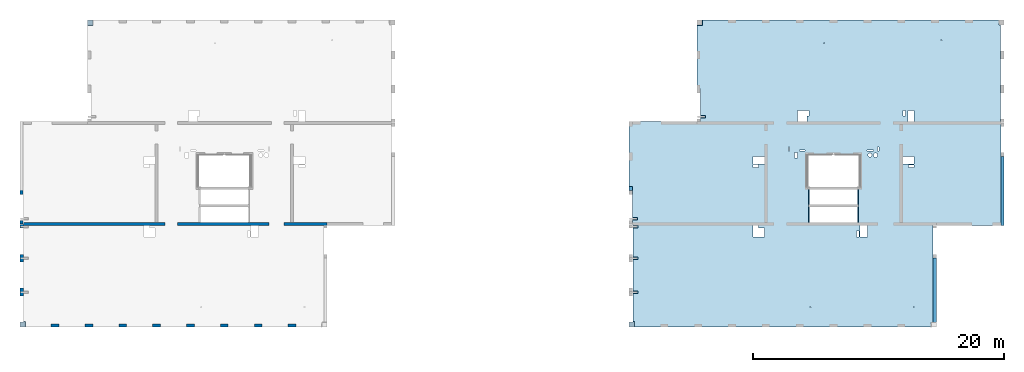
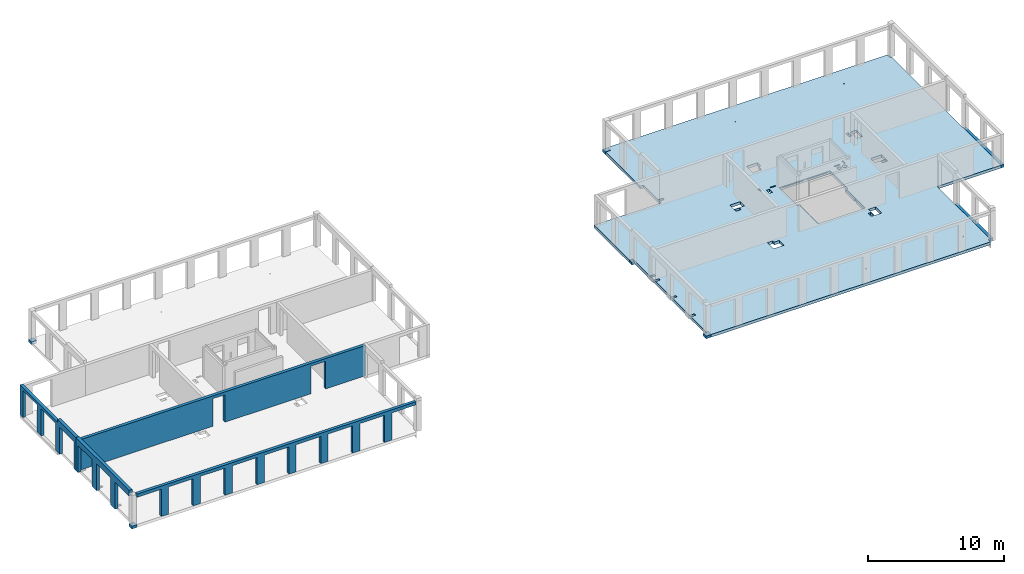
# One storey, part 2 of 8: 8 slabs, 4 walls, 54 openings.
"""IFC2X3 building model written with IfcOpenShell, lengths in millimetres."""

from ifc_helpers import new_model, entity, si_unit, converted_unit, derived_unit, direction, frame, frame_2d, origin, origin_2d_with_axis, place, context, subcontext, project, spatial, polyline, rectangle, circle, outline, extrude, material, layer, layer_set, layer_usage, type_object, element, save


model = new_model("IFC2X3")

# Units and contexts
model_context = context("Model", 3, precision=0.01, world=origin(), true_north=direction((6.12303176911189e-17, 1.0)))
body_context = subcontext(model_context, "Body", "Model", "MODEL_VIEW")
ifc_project = project(units=[si_unit("LENGTHUNIT", "METRE", prefix="MILLI"), si_unit("AREAUNIT", "SQUARE_METRE"), si_unit("VOLUMEUNIT", "CUBIC_METRE"), converted_unit("PLANEANGLEUNIT", "DEGREE", entity("IfcRatioMeasure", 0.0174532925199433), si_unit("PLANEANGLEUNIT", "RADIAN"), dimensions=[0, 0, 0, 0, 0, 0, 0]), si_unit("MASSUNIT", "GRAM", prefix="KILO"), derived_unit("MASSDENSITYUNIT", [(si_unit("MASSUNIT", "GRAM", prefix="KILO"), 1), (si_unit("LENGTHUNIT", "METRE"), -3)]), si_unit("TIMEUNIT", "SECOND"), si_unit("FREQUENCYUNIT", "HERTZ"), si_unit("THERMODYNAMICTEMPERATUREUNIT", "DEGREE_CELSIUS"), derived_unit("THERMALTRANSMITTANCEUNIT", [(si_unit("MASSUNIT", "GRAM", prefix="KILO"), 1), (si_unit("THERMODYNAMICTEMPERATUREUNIT", "KELVIN"), -1), (si_unit("TIMEUNIT", "SECOND"), -3)]), derived_unit("VOLUMETRICFLOWRATEUNIT", [(si_unit("LENGTHUNIT", "METRE"), 3), (si_unit("TIMEUNIT", "SECOND"), -1)]), si_unit("ELECTRICCURRENTUNIT", "AMPERE"), si_unit("ELECTRICVOLTAGEUNIT", "VOLT"), si_unit("POWERUNIT", "WATT"), si_unit("FORCEUNIT", "NEWTON", prefix="KILO"), si_unit("ILLUMINANCEUNIT", "LUX"), si_unit("LUMINOUSFLUXUNIT", "LUMEN"), si_unit("LUMINOUSINTENSITYUNIT", "CANDELA"), derived_unit("USERDEFINED", [(si_unit("MASSUNIT", "GRAM", prefix="KILO"), -1), (si_unit("LENGTHUNIT", "METRE"), -2), (si_unit("TIMEUNIT", "SECOND"), 3), (si_unit("LUMINOUSFLUXUNIT", "LUMEN"), 1)]), derived_unit("LINEARVELOCITYUNIT", [(si_unit("LENGTHUNIT", "METRE"), 1), (si_unit("TIMEUNIT", "SECOND"), -1)]), si_unit("PRESSUREUNIT", "PASCAL"), derived_unit("USERDEFINED", [(si_unit("LENGTHUNIT", "METRE"), -2), (si_unit("MASSUNIT", "GRAM", prefix="KILO"), 1), (si_unit("TIMEUNIT", "SECOND"), -2)])], contexts=[model_context])

# Site, building, storey
site_placement = place(None, origin())
site = spatial("IfcSite", under=ifc_project, at=site_placement, Name="Default", CompositionType="ELEMENT")
building_placement = place(site_placement, origin())
building = spatial("IfcBuilding", under=site, at=building_placement, Name="niet gebruiken", CompositionType="ELEMENT")
storey_placement = place(building_placement, frame((0.0, 0.0, 45270.0)))
storey = spatial("IfcBuildingStorey", under=building, at=storey_placement, Name="15 vijftiende verdieping", CompositionType="ELEMENT", Elevation=45270.0)

# Slab, openings
ifc_material_1 = material(Name="NLRS_f2_beton ihwg")
ifc_layer_1 = layer(ifc_material_1, 250.0)
ifc_layer_set_1 = layer_set([ifc_layer_1], Name="Floor:NLRS_23.21_FL_beton ihwg d=250_gen")
ifc_layer_usage_1 = layer_usage(ifc_layer_set_1, "AXIS3", "POSITIVE", 0.0)
slab_1_placement = place(storey_placement, frame((75500.0, 28756.0, -340.0)))
slab_1 = element("IfcSlab", 1, at=slab_1_placement, inside=storey, material=ifc_layer_usage_1, Name="Floor:NLRS_23.21_FL_beton ihwg d=250_gen", ObjectType="Floor:NLRS_23.21_FL_beton ihwg d=250_gen", PredefinedType="FLOOR", context=body_context, shape_type="SweptSolid", body=[
    extrude(outline(polyline([(8994.99996701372, 12250.0), (-14665.0, 12250.0), (-14665.0, 11840.0), (-14805.0, 11840.0), (-14805.0, 4060.0), (-14825.0, 4060.0), (-14825.0, -4150.0), (-9425.0, -4150.0), (-9425.0, -11890.0), (-9265.0, -11890.0), (-9265.0, -12250.0), (14395.0, -12250.0), (14395.0, -11820.0), (14535.0, -11820.0), (14535.0, -4060.0), (14555.0, -4060.0), (14555.0, -1040.0), (14825.0, -1040.0), (14825.0, 4150.0), (9155.0, 4150.0), (9155.0, 6750.0), (9425.0, 6750.0), (9425.0, 11820.0), (8994.99996701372, 11820.0), (8994.99996701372, 12250.0)])), frame((14825.0, 12250.0, 250.0), z_axis=(0.0, 0.0, -1.0), x_axis=(-1.0, 0.0, 0.0)), (0.0, 0.0, 1.0), 250.000000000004),
])
opening_1_placement = place(storey_placement, frame((75500.0, 28756.0, -340.0)))
element("IfcOpeningElement", 2, at=opening_1_placement, cuts=slab_1, ObjectType="Opening", context=body_context, shape_type="SweptSolid", body=[
    extrude(circle(Radius=37.5, at=frame_2d((-7875.0, -10650.0), x_axis=(1.0, 0.0))), frame((14825.0, 12250.0, 250.0), z_axis=(0.0, 0.0, -1.0), x_axis=(-1.0, 0.0, 0.0)), (0.0, 0.0, 1.0), 250.000000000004),
])
opening_2_placement = place(storey_placement, frame((75500.0, 28756.0, -340.0)))
element("IfcOpeningElement", 3, at=opening_2_placement, cuts=slab_1, ObjectType="Opening", context=body_context, shape_type="SweptSolid", body=[
    extrude(circle(Radius=37.5, at=frame_2d((-10075.0, 10650.0), x_axis=(1.0, 0.0))), frame((14825.0, 12250.0, 250.0), z_axis=(0.0, 0.0, -1.0), x_axis=(-1.0, 0.0, 0.0)), (0.0, 0.0, 1.0), 250.000000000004),
])
opening_3_placement = place(storey_placement, frame((75500.0, 28756.0, -340.0)))
element("IfcOpeningElement", 4, at=opening_3_placement, cuts=slab_1, ObjectType="Opening", context=body_context, shape_type="SweptSolid", body=[
    extrude(circle(Radius=37.5, at=frame_2d((-725.0, 10400.0), x_axis=(1.0, 0.0))), frame((14825.0, 12250.0, 250.0), z_axis=(0.0, 0.0, -1.0), x_axis=(-1.0, 0.0, 0.0)), (0.0, 0.0, 1.0), 250.000000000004),
])
opening_4_placement = place(storey_placement, frame((75500.0, 28756.0, -340.0)))
element("IfcOpeningElement", 5, at=opening_4_placement, cuts=slab_1, ObjectType="Opening", context=body_context, shape_type="SweptSolid", body=[
    extrude(circle(Radius=37.5, at=frame_2d((375.0, -10650.0), x_axis=(1.0, 0.0))), frame((14825.0, 12250.0, 250.0), z_axis=(0.0, 0.0, -1.0), x_axis=(-1.0, 0.0, 0.0)), (0.0, 0.0, 1.0), 250.000000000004),
])
opening_5_placement = place(slab_1_placement, origin())
element("IfcOpeningElement", 6, at=opening_5_placement, cuts=slab_1, ObjectType="Opening", context=body_context, shape_type="SweptSolid", body=[
    extrude(rectangle(XDim=109.999999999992, YDim=1220.0, at=origin_2d_with_axis()), frame((14344.9999671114, 10380.0, 210.0)), (0.0, 0.0, 1.0), 39.9999999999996),
])
opening_6_placement = place(slab_1_placement, origin())
element("IfcOpeningElement", 7, at=opening_6_placement, cuts=slab_1, ObjectType="Opening", context=body_context, shape_type="SweptSolid", body=[
    extrude(rectangle(XDim=109.999999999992, YDim=1220.0, at=origin_2d_with_axis()), frame((18255.0, 10380.0, 210.0)), (0.0, 0.0, 1.0), 39.9999999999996),
])
opening_7_placement = place(slab_1_placement, origin())
element("IfcOpeningElement", 8, at=opening_7_placement, cuts=slab_1, ObjectType="Opening", context=body_context, shape_type="SweptSolid", body=[
    extrude(rectangle(XDim=109.999999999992, YDim=1220.0, at=origin_2d_with_axis()), frame((18255.0, 8960.0, 210.0)), (0.0, 0.0, 1.0), 39.9999999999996),
])
opening_8_placement = place(slab_1_placement, origin())
element("IfcOpeningElement", 9, at=opening_8_placement, cuts=slab_1, ObjectType="Opening", context=body_context, shape_type="SweptSolid", body=[
    extrude(rectangle(XDim=109.999999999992, YDim=1220.0, at=origin_2d_with_axis()), frame((14344.9999671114, 8960.0, 210.0)), (0.0, 0.0, 1.0), 39.9999999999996),
])
opening_9_placement = place(slab_1_placement, origin())
element("IfcOpeningElement", 10, at=opening_9_placement, cuts=slab_1, ObjectType="Opening", context=body_context, shape_type="SweptSolid", body=[
    extrude(rectangle(XDim=400.000000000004, YDim=200.000000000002, at=origin_2d_with_axis()), frame((470.0, 8630.0, 220.0)), (0.0, 0.0, 1.0), 30.0000000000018),
])
opening_10_placement = place(slab_1_placement, origin())
element("IfcOpeningElement", 11, at=opening_10_placement, cuts=slab_1, ObjectType="Opening", context=body_context, shape_type="SweptSolid", body=[
    extrude(rectangle(XDim=200.000000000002, YDim=400.000000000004, at=origin_2d_with_axis()), frame((490.0, 8000.0, 220.0), z_axis=(0.0, 0.0, 1.0), x_axis=(0.0, -1.0, 0.0)), (0.0, 0.0, 1.0), 30.0000000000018),
])
opening_11_placement = place(slab_1_placement, origin())
element("IfcOpeningElement", 12, at=opening_11_placement, cuts=slab_1, ObjectType="Opening", context=body_context, shape_type="SweptSolid", body=[
    extrude(rectangle(XDim=200.000000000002, YDim=400.000000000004, at=origin_2d_with_axis()), frame((490.0, 5500.0, 220.0), z_axis=(0.0, 0.0, 1.0), x_axis=(0.0, -1.0, 0.0)), (0.0, 0.0, 1.0), 30.0000000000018),
])
opening_12_placement = place(slab_1_placement, origin())
element("IfcOpeningElement", 13, at=opening_12_placement, cuts=slab_1, ObjectType="Opening", context=body_context, shape_type="SweptSolid", body=[
    extrude(rectangle(XDim=200.000000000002, YDim=400.000000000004, at=origin_2d_with_axis()), frame((490.0, 2800.0, 220.0), z_axis=(0.0, 0.0, 1.0), x_axis=(0.0, -1.0, 0.0)), (0.0, 0.0, 1.0), 30.0000000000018),
])
opening_13_placement = place(slab_1_placement, origin())
element("IfcOpeningElement", 14, at=opening_13_placement, cuts=slab_1, ObjectType="Opening", context=body_context, shape_type="SweptSolid", body=[
    extrude(rectangle(XDim=399.999999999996, YDim=199.999999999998, at=origin_2d_with_axis()), frame((5870.0, 16765.0, 220.0)), (0.0, 0.0, 1.0), 30.0000000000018),
])
opening_14_placement = place(slab_1_placement, origin())
element("IfcOpeningElement", 15, at=opening_14_placement, cuts=slab_1, ObjectType="Opening", context=body_context, shape_type="SweptSolid", body=[
    extrude(rectangle(XDim=900.000000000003, YDim=730.000000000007, at=origin_2d_with_axis()), frame((13800.0, 16850.0, 0.0), z_axis=(0.0, 0.0, 1.0), x_axis=(0.0, 1.0, 0.0)), (0.0, 0.0, 1.0), 250.000000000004),
])
opening_15_placement = place(slab_1_placement, origin())
element("IfcOpeningElement", 16, at=opening_15_placement, cuts=slab_1, ObjectType="Opening", context=body_context, shape_type="SweptSolid", body=[
    extrude(rectangle(XDim=169.999999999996, YDim=450.000000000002, at=origin_2d_with_axis()), frame((14250.0, 17075.0, 0.0), z_axis=(0.0, 0.0, 1.0), x_axis=(-1.0, 0.0, 0.0)), (0.0, 0.0, 1.0), 250.000000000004),
])
opening_16_placement = place(slab_1_placement, origin())
element("IfcOpeningElement", 17, at=opening_16_placement, cuts=slab_1, ObjectType="Opening", context=body_context, shape_type="SweptSolid", body=[
    extrude(rectangle(XDim=900.000000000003, YDim=700.000000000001, at=origin_2d_with_axis()), frame((10325.0, 7550.0, 0.0), z_axis=(0.0, 0.0, 1.0), x_axis=(-1.0, 0.0, 0.0)), (0.0, 0.0, 1.0), 250.000000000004),
])
opening_17_placement = place(slab_1_placement, origin())
element("IfcOpeningElement", 18, at=opening_17_placement, cuts=slab_1, ObjectType="Opening", context=body_context, shape_type="SweptSolid", body=[
    extrude(rectangle(XDim=200.000000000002, YDim=450.000000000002, at=origin_2d_with_axis()), frame((10100.0, 8000.0, 0.0), z_axis=(0.0, 0.0, 1.0), x_axis=(0.0, -1.0, 0.0)), (0.0, 0.0, 1.0), 250.000000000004),
])
opening_18_placement = place(slab_1_placement, origin())
element("IfcOpeningElement", 19, at=opening_18_placement, cuts=slab_1, ObjectType="Opening", context=body_context, shape_type="SweptSolid", body=[
    extrude(rectangle(XDim=900.000000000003, YDim=600.000000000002, at=origin_2d_with_axis()), frame((10325.0, 13330.0, 0.0), z_axis=(0.0, 0.0, 1.0), x_axis=(-1.0, 0.0, 0.0)), (0.0, 0.0, 1.0), 250.000000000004),
])
opening_19_placement = place(slab_1_placement, origin())
element("IfcOpeningElement", 20, at=opening_19_placement, cuts=slab_1, ObjectType="Opening", context=body_context, shape_type="SweptSolid", body=[
    extrude(rectangle(XDim=900.000000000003, YDim=500.000000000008, at=origin_2d_with_axis()), frame((22475.0, 16850.0, 0.0), z_axis=(0.0, 0.0, 1.0), x_axis=(0.0, 1.0, 0.0)), (0.0, 0.0, 1.0), 250.000000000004),
])
opening_20_placement = place(slab_1_placement, origin())
element("IfcOpeningElement", 21, at=opening_20_placement, cuts=slab_1, ObjectType="Opening", context=body_context, shape_type="SweptSolid", body=[
    extrude(rectangle(XDim=899.999999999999, YDim=600.000000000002, at=origin_2d_with_axis()), frame((18729.9818996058, 7650.0, 0.0), z_axis=(0.0, 0.0, 1.0), x_axis=(0.0, 1.0, 0.0)), (0.0, 0.0, 1.0), 250.000000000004),
])
opening_21_placement = place(slab_1_placement, origin())
element("IfcOpeningElement", 22, at=opening_21_placement, cuts=slab_1, ObjectType="Opening", context=body_context, shape_type="SweptSolid", body=[
    extrude(rectangle(XDim=900.000000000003, YDim=600.000000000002, at=origin_2d_with_axis()), frame((22275.0, 13330.0, 0.0), z_axis=(0.0, 0.0, 1.0), x_axis=(-1.0, 0.0, 0.0)), (0.0, 0.0, 1.0), 250.000000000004),
])
opening_22_placement = place(slab_1_placement, origin())
element("IfcOpeningElement", 23, at=opening_22_placement, cuts=slab_1, ObjectType="Opening", context=body_context, shape_type="SweptSolid", body=[
    extrude(rectangle(XDim=1760.00000000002, YDim=23.0000000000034, at=origin_2d_with_axis()), frame((15244.9998491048, 13751.5, 180.0)), (0.0, 0.0, 1.0), 40.0000000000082),
])
opening_23_placement = place(slab_1_placement, origin())
element("IfcOpeningElement", 24, at=opening_23_placement, cuts=slab_1, ObjectType="Opening", context=body_context, shape_type="SweptSolid", body=[
    extrude(rectangle(XDim=1760.0, YDim=23.0000000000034, at=origin_2d_with_axis()), frame((17354.999849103, 13751.5, 180.0)), (0.0, 0.0, 1.0), 40.0000000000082),
])
opening_24_placement = place(slab_1_placement, origin())
element("IfcOpeningElement", 25, at=opening_24_placement, cuts=slab_1, ObjectType="Opening", context=body_context, shape_type="SweptSolid", body=[
    extrude(rectangle(XDim=99.9999999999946, YDim=340.000000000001, at=origin_2d_with_axis()), frame((19865.0, 14210.0, 0.0), z_axis=(0.0, 0.0, 1.0), x_axis=(-1.0, 0.0, 0.0)), (0.0, 0.0, 1.0), 250.000000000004),
])
opening_25_placement = place(slab_1_placement, origin())
element("IfcOpeningElement", 26, at=opening_25_placement, cuts=slab_1, ObjectType="Opening", context=body_context, shape_type="SweptSolid", body=[
    extrude(rectangle(XDim=100.000000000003, YDim=490.00000000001, at=origin_2d_with_axis()), frame((19225.0, 14090.0, 0.0), z_axis=(0.0, 0.0, 1.0), x_axis=(0.0, -1.0, 0.0)), (0.0, 0.0, 1.0), 250.000000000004),
])
opening_26_placement = place(slab_1_placement, origin())
element("IfcOpeningElement", 27, at=opening_26_placement, cuts=slab_1, ObjectType="Opening", context=body_context, shape_type="SweptSolid", body=[
    extrude(rectangle(XDim=100.000000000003, YDim=440.000000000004, at=origin_2d_with_axis()), frame((13805.0, 14090.0, 0.0), z_axis=(0.0, 0.0, 1.0), x_axis=(0.0, -1.0, 0.0)), (0.0, 0.0, 1.0), 250.000000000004),
])
opening_27_placement = place(slab_1_placement, origin())
element("IfcOpeningElement", 28, at=opening_27_placement, cuts=slab_1, ObjectType="Opening", context=body_context, shape_type="SweptSolid", body=[
    extrude(rectangle(XDim=99.9999999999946, YDim=340.000000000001, at=origin_2d_with_axis()), frame((12755.0, 14210.0, 0.0), z_axis=(0.0, 0.0, 1.0), x_axis=(-1.0, 0.0, 0.0)), (0.0, 0.0, 1.0), 250.000000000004),
])
opening_28_placement = place(slab_1_placement, origin())
element("IfcOpeningElement", 29, at=opening_28_placement, cuts=slab_1, ObjectType="Opening", context=body_context, shape_type="SweptSolid", body=[
    extrude(rectangle(XDim=230.0, YDim=450.000000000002, at=origin_2d_with_axis()), frame((10100.0000865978, 12845.0002270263, 0.0), z_axis=(0.0, 0.0, 1.0), x_axis=(0.0, -1.0, 0.0)), (0.0, 0.0, 1.0), 250.000000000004),
])
opening_29_placement = place(slab_1_placement, origin())
element("IfcOpeningElement", 30, at=opening_29_placement, cuts=slab_1, ObjectType="Opening", context=body_context, shape_type="SweptSolid", body=[
    extrude(rectangle(XDim=220.000000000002, YDim=450.000000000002, at=origin_2d_with_axis()), frame((21935.0, 17075.0, 0.0), z_axis=(0.0, 0.0, 1.0), x_axis=(-1.0, 0.0, 0.0)), (0.0, 0.0, 1.0), 250.000000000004),
])
opening_30_placement = place(slab_1_placement, origin())
element("IfcOpeningElement", 31, at=opening_30_placement, cuts=slab_1, ObjectType="Opening", context=body_context, shape_type="SweptSolid", body=[
    extrude(rectangle(XDim=220.000000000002, YDim=450.000000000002, at=origin_2d_with_axis()), frame((22500.0, 12840.0, 0.0), z_axis=(0.0, 0.0, 1.0), x_axis=(0.0, -1.0, 0.0)), (0.0, 0.0, 1.0), 250.000000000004),
])
opening_31_placement = place(slab_1_placement, origin())
element("IfcOpeningElement", 32, at=opening_31_placement, cuts=slab_1, ObjectType="Opening", context=body_context, shape_type="SweptSolid", body=[
    extrude(rectangle(XDim=220.000000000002, YDim=450.000000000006, at=origin_2d_with_axis()), frame((18240.0, 7425.0, 0.0)), (0.0, 0.0, 1.0), 250.000000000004),
])
opening_32_placement = place(slab_1_placement, origin())
element("IfcOpeningElement", 33, at=opening_32_placement, cuts=slab_1, ObjectType="Opening", context=body_context, shape_type="SweptSolid", body=[
    extrude(rectangle(XDim=249.999999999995, YDim=440.000000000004, at=origin_2d_with_axis()), frame((13305.0, 13720.0, 0.0)), (0.0, 0.0, 1.0), 250.000000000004),
])
opening_33_placement = place(slab_1_placement, origin())
element("IfcOpeningElement", 34, at=opening_33_placement, cuts=slab_1, ObjectType="Opening", context=body_context, shape_type="SweptSolid", body=[
    extrude(circle(Radius=177.5, at=origin_2d_with_axis()), frame((19650.0, 13720.0, 0.0)), (0.0, 0.0, 1.0), 250.000000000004),
])
opening_34_placement = place(slab_1_placement, origin())
element("IfcOpeningElement", 35, at=opening_34_placement, cuts=slab_1, ObjectType="Opening", context=body_context, shape_type="SweptSolid", body=[
    extrude(circle(Radius=157.5, at=origin_2d_with_axis()), frame((19200.0, 13720.0, 0.0)), (0.0, 0.0, 1.0), 250.000000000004),
])
opening_35_placement = place(slab_1_placement, frame((16300.0, 10378.7499999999, 250.0)))
element("IfcOpeningElement", 36, at=opening_35_placement, cuts=slab_1, Name="Floor:NLRS_23.21_FL_beton ihwg d=250_gen:2", ObjectType="Opening", context=body_context, shape_type="SweptSolid", body=[
    extrude(outline(polyline([(-1899.99998355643, -2028.75), (1900.00001644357, -2028.75), (1900.00001644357, -808.749999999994), (1999.99998355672, -808.749999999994), (1999.99998355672, -608.749999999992), (1900.00001644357, -608.749999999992), (1900.00001644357, 751.250000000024), (2134.99998355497, 751.250000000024), (2134.99998355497, 3361.24999999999), (-2135.0000164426, 3361.24999999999), (-2135.0000164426, 751.250000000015), (-1899.99998355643, 751.250000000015), (-1899.99998355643, -608.750000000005), (-2000.00001644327, -608.750000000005), (-2000.00001644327, -808.750000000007), (-1899.99998355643, -808.750000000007), (-1899.99998355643, -2028.75)])), frame((0.0, 0.0, 0.0), z_axis=(0.0, 0.0, -1.0), x_axis=(-1.0, 0.0, 0.0)), (0.0, 0.0, 1.0), 250.000000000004),
])

# Slabs
ifc_layer_usage_2 = layer_usage(ifc_layer_set_1, "AXIS3", "POSITIVE", 0.0)
slab_2_placement = place(storey_placement, origin())
element("IfcSlab", 37, at=slab_2_placement, inside=storey, material=ifc_layer_usage_2, Name="Floor:NLRS_23.21_FL_beton ihwg d=250_gen", ObjectType="Floor:NLRS_23.21_FL_beton ihwg d=250_gen", PredefinedType="FLOOR", context=body_context, shape_type="SweptSolid", body=[
    extrude(rectangle(XDim=309.9999999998, YDim=250.000000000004, at=frame_2d((-4.33431068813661e-12, 4.33431068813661e-12), x_axis=(1.0, 0.0))), frame((75625.0, 39811.0, -90.0), z_axis=(0.0, 0.0, -1.0), x_axis=(0.0, 1.0, 0.0)), (0.0, 0.0, 1.0), 250.000000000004),
])
ifc_layer_usage_3 = layer_usage(ifc_layer_set_1, "AXIS3", "POSITIVE", 0.0)
slab_3_placement = place(storey_placement, origin())
element("IfcSlab", 38, at=slab_3_placement, inside=storey, material=ifc_layer_usage_3, Name="Floor:NLRS_23.21_FL_beton ihwg d=250_gen", ObjectType="Floor:NLRS_23.21_FL_beton ihwg d=250_gen", PredefinedType="FLOOR", context=body_context, shape_type="SweptSolid", body=[
    extrude(rectangle(XDim=5140.00000000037, YDim=250.000065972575, at=frame_2d((-2.27373675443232e-12, 0.0), x_axis=(1.0, 0.0))), frame((99875.0, 31686.0, -90.0), z_axis=(0.0, 0.0, -1.0), x_axis=(0.0, 1.0, 0.0)), (0.0, 0.0, 1.0), 250.000000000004),
])
ifc_layer_usage_4 = layer_usage(ifc_layer_set_1, "AXIS3", "POSITIVE", 0.0)
slab_4_placement = place(storey_placement, origin())
element("IfcSlab", 39, at=slab_4_placement, inside=storey, material=ifc_layer_usage_4, Name="Floor:NLRS_23.21_FL_beton ihwg d=250_gen", ObjectType="Floor:NLRS_23.21_FL_beton ihwg d=250_gen", PredefinedType="FLOOR", context=body_context, shape_type="SweptSolid", body=[
    extrude(rectangle(XDim=5500.00000000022, YDim=250.000000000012, at=origin_2d_with_axis()), frame((105275.0, 39606.0, -90.0), z_axis=(0.0, 0.0, -1.0), x_axis=(0.0, 1.0, 0.0)), (0.0, 0.0, 1.0), 250.000000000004),
])
ifc_layer_usage_5 = layer_usage(ifc_layer_set_1, "AXIS3", "POSITIVE", 0.0)
slab_5_placement = place(storey_placement, origin())
element("IfcSlab", 40, at=slab_5_placement, inside=storey, material=ifc_layer_usage_5, Name="Floor:NLRS_23.21_FL_beton ihwg d=250_gen", ObjectType="Floor:NLRS_23.21_FL_beton ihwg d=250_gen", PredefinedType="FLOOR", context=body_context, shape_type="SweptSolid", body=[
    extrude(outline(polyline([(-280.0, -240.0), (130.0, -240.0), (130.0, 50.0), (150.0, 50.0), (150.0, 190.0), (-280.0, 190.0), (-280.0, -240.0)])), frame((75740.0, 29036.0, -90.0), z_axis=(0.0, 0.0, -1.0), x_axis=(0.0, 1.0, 0.0)), (0.0, 0.0, 1.0), 250.000000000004),
])
ifc_layer_usage_6 = layer_usage(ifc_layer_set_1, "AXIS3", "POSITIVE", 0.0)
slab_6_placement = place(storey_placement, origin())
element("IfcSlab", 41, at=slab_6_placement, inside=storey, material=ifc_layer_usage_6, Name="Floor:NLRS_23.21_FL_beton ihwg d=250_gen", ObjectType="Floor:NLRS_23.21_FL_beton ihwg d=250_gen", PredefinedType="FLOOR", context=body_context, shape_type="SweptSolid", body=[
    extrude(outline(polyline([(-280.0, -240.0), (130.0, -240.0), (130.0, 50.0), (150.0, 50.0), (150.0, 190.0), (-280.0, 190.0), (-280.0, -240.0)])), frame((27140.0, 29036.0, -90.0), z_axis=(0.0, 0.0, -1.0), x_axis=(0.0, 1.0, 0.0)), (0.0, 0.0, 1.0), 250.000000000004),
])
ifc_layer_usage_7 = layer_usage(ifc_layer_set_1, "AXIS3", "POSITIVE", 0.0)
slab_7_placement = place(storey_placement, origin())
element("IfcSlab", 42, at=slab_7_placement, inside=storey, material=ifc_layer_usage_7, Name="Floor:NLRS_23.21_FL_beton ihwg d=250_gen", ObjectType="Floor:NLRS_23.21_FL_beton ihwg d=250_gen", PredefinedType="FLOOR", context=body_context, shape_type="SweptSolid", body=[
    extrude(rectangle(XDim=429.999999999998, YDim=430.000032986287, at=frame_2d((4.33431068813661e-12, 0.0), x_axis=(1.0, 0.0))), frame((81115.0, 53041.0, -90.0), z_axis=(0.0, 0.0, -1.0), x_axis=(0.0, 1.0, 0.0)), (0.0, 0.0, 1.0), 250.000000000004),
])
ifc_layer_usage_8 = layer_usage(ifc_layer_set_1, "AXIS3", "POSITIVE", 0.0)
slab_8_placement = place(storey_placement, origin())
element("IfcSlab", 43, at=slab_8_placement, inside=storey, material=ifc_layer_usage_8, Name="Floor:NLRS_23.21_FL_beton ihwg d=250_gen", ObjectType="Floor:NLRS_23.21_FL_beton ihwg d=250_gen", PredefinedType="FLOOR", context=body_context, shape_type="SweptSolid", body=[
    extrude(rectangle(XDim=429.999999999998, YDim=430.000032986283, at=frame_2d((4.33431068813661e-12, 2.1600499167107e-12), x_axis=(1.0, 0.0))), frame((32515.0, 53041.0, -90.0), z_axis=(0.0, 0.0, -1.0), x_axis=(0.0, 1.0, 0.0)), (0.0, 0.0, 1.0), 250.000000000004),
])

# Wall, openings
ifc_layer_2 = layer(ifc_material_1, 250.0)
ifc_layer_set_2 = layer_set([ifc_layer_2], Name="Basic Wall:NLRS_22.21_WA_beton ihwg d=250_gen")
ifc_layer_usage_9 = layer_usage(ifc_layer_set_2, "AXIS2", "NEGATIVE", 125.0)
wall_type_1 = type_object("IfcWallType", Name="Basic Wall:NLRS_22.21_WA_beton ihwg d=250_gen", PredefinedType="STANDARD", material=ifc_layer_set_2)
wall_1_placement = place(storey_placement, frame((27170.0, 36981.0, -90.0)))
wall_1 = element("IfcWallStandardCase", 44, at=wall_1_placement, inside=storey, type_object=wall_type_1, material=ifc_layer_usage_9, Name="Basic Wall:NLRS_22.21_WA_beton ihwg d=250_gen", ObjectType="Basic Wall:NLRS_22.21_WA_beton ihwg d=250_gen", context=body_context, shape_type="SweptSolid", body=[
    extrude(rectangle(XDim=24230.0000000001, YDim=250.000000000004, at=frame_2d((12115.0, 0.0), x_axis=(-1.0, 0.0))), origin(), (0.0, 0.0, 1.0), 2719.99999999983),
])
opening_36_placement = place(wall_1_placement, origin())
element("IfcOpeningElement", 45, at=opening_36_placement, cuts=wall_1, Name="Basic Wall:NLRS_22.21_WA_beton ihwg d=250_gen", ObjectType="Opening", context=body_context, shape_type="SweptSolid", body=[
    extrude(rectangle(XDim=2470.0, YDim=1225.0, at=frame_2d((0.0, 4.43378667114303e-12), x_axis=(0.0, 1.0))), frame((20192.500000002, -1399.0, 1235.0), z_axis=(0.0, 1.0, 0.0), x_axis=(-1.0, 0.0, 0.0)), (0.0, 0.0, 1.0), 3048.0),
])
opening_37_placement = place(wall_1_placement, origin())
element("IfcOpeningElement", 46, at=opening_37_placement, cuts=wall_1, Name="Basic Wall:NLRS_22.21_WA_beton ihwg d=250_gen", ObjectType="Opening", context=body_context, shape_type="SweptSolid", body=[
    extrude(rectangle(XDim=2470.0, YDim=1006.0, at=frame_2d((2.1600499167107e-12, -4.43378667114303e-12), x_axis=(0.0, 1.0))), frame((11782.0, -1399.0, 1235.0), z_axis=(0.0, 1.0, 0.0), x_axis=(-1.0, 0.0, 0.0)), (0.0, 0.0, 1.0), 3048.0),
])
opening_38_placement = place(wall_1_placement, origin())
element("IfcOpeningElement", 47, at=opening_38_placement, cuts=wall_1, Name="Basic Wall:NLRS_22.21_WA_beton ihwg d=250_gen", ObjectType="Recess", context=body_context, shape_type="SweptSolid", body=[
    extrude(rectangle(XDim=55000.0, YDim=20.0000000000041, at=frame_2d((0.0, -2.16626716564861e-12), x_axis=(1.0, 0.0))), frame((10.0, -140.0, -5170.0), z_axis=(0.0, 1.0, 0.0), x_axis=(0.0, 0.0, -1.0)), (0.0, 0.0, 1.0), 124.999999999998),
])

ifc_material_2 = material(Name="NLRS_f2_beton prefab")
ifc_layer_3 = layer(ifc_material_2, 250.0)
ifc_layer_set_3 = layer_set([ifc_layer_3], Name="Basic Wall:NLRS_21.21_WA_beton prefab d=250_gen")
ifc_layer_usage_10 = layer_usage(ifc_layer_set_3, "AXIS2", "NEGATIVE", 125.0)
wall_type_2 = type_object("IfcWallType", Name="Basic Wall:NLRS_21.21_WA_beton prefab d=250_gen", PredefinedType="STANDARD", material=ifc_layer_set_3)
wall_2_placement = place(storey_placement, frame((27025.0, 45156.0, -70.0), z_axis=(0.0, 0.0, 1.0), x_axis=(0.0, -1.0, 0.0)))
wall_2 = element("IfcWallStandardCase", 48, at=wall_2_placement, inside=storey, type_object=wall_type_2, material=ifc_layer_usage_10, Name="Basic Wall:NLRS_21.21_WA_beton prefab d=250_gen", ObjectType="Basic Wall:NLRS_21.21_WA_beton prefab d=250_gen", context=body_context, shape_type="SweptSolid", body=[
    extrude(rectangle(XDim=8189.99999999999, YDim=250.000000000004, at=frame_2d((4095.0, 0.0), x_axis=(-1.0, 0.0))), origin(), (0.0, 0.0, 1.0), 2949.99999999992),
])
opening_39_placement = place(wall_2_placement, origin())
element("IfcOpeningElement", 49, at=opening_39_placement, cuts=wall_2, Name="Basic Wall:NLRS_21.21_WA_beton prefab d=250_gen", ObjectType="Opening", context=body_context, shape_type="SweptSolid", body=[
    extrude(rectangle(XDim=2420.0, YDim=2080.0, at=frame_2d((0.0, 0.0), x_axis=(0.0, 1.0))), frame((1450.0, -1399.0, 1210.0), z_axis=(0.0, 1.0, 0.0), x_axis=(-1.0, 0.0, 0.0)), (0.0, 0.0, 1.0), 3048.0),
])
opening_40_placement = place(wall_2_placement, origin())
element("IfcOpeningElement", 50, at=opening_40_placement, cuts=wall_2, Name="Basic Wall:NLRS_21.21_WA_beton prefab d=250_gen", ObjectType="Opening", context=body_context, shape_type="SweptSolid", body=[
    extrude(rectangle(XDim=2420.0, YDim=2080.0, at=frame_2d((0.0, 0.0), x_axis=(0.0, 1.0))), frame((4150.0, -1399.0, 1210.0), z_axis=(0.0, 1.0, 0.0), x_axis=(-1.0, 0.0, 0.0)), (0.0, 0.0, 1.0), 3048.0),
])
opening_41_placement = place(wall_2_placement, origin())
element("IfcOpeningElement", 51, at=opening_41_placement, cuts=wall_2, Name="Basic Wall:NLRS_21.21_WA_beton prefab d=250_gen", ObjectType="Opening", context=body_context, shape_type="SweptSolid", body=[
    extrude(rectangle(XDim=2420.0, YDim=2080.0, at=frame_2d((0.0, 0.0), x_axis=(0.0, 1.0))), frame((6850.0, -1399.0, 1210.0), z_axis=(0.0, 1.0, 0.0), x_axis=(-1.0, 0.0, 0.0)), (0.0, 0.0, 1.0), 3048.0),
])
opening_42_placement = place(wall_2_placement, origin())
element("IfcOpeningElement", 52, at=opening_42_placement, cuts=wall_2, Name="Basic Wall:NLRS_21.21_WA_beton prefab d=250_gen", ObjectType="Opening", context=body_context, shape_type="SweptSolid", body=[
    extrude(rectangle(XDim=250.000000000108, YDim=5499.99999999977, at=frame_2d((0.0, 4.32720526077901e-12), x_axis=(0.0, 1.0))), frame((2750.0, 125.0, 2825.0), z_axis=(0.0, -1.0, 0.0), x_axis=(-1.0, 0.0, 0.0)), (0.0, 0.0, 1.0), 250.0),
])

ifc_layer_4 = layer(ifc_material_1, 250.0)
ifc_layer_set_4 = layer_set([ifc_layer_4], Name="Basic Wall:NLRS_21.21_WA_beton ihwg d=250_gen")
ifc_layer_usage_11 = layer_usage(ifc_layer_set_4, "AXIS2", "NEGATIVE", 125.0)
wall_type_3 = type_object("IfcWallType", Name="Basic Wall:NLRS_21.21_WA_beton ihwg d=250_gen", PredefinedType="STANDARD", material=ifc_layer_set_4)
wall_3_placement = place(storey_placement, frame((27330.0, 28881.0, -90.0)))
wall_3 = element("IfcWallStandardCase", 53, at=wall_3_placement, inside=storey, type_object=wall_type_3, material=ifc_layer_usage_11, Name="Basic Wall:NLRS_21.21_WA_beton ihwg d=250_gen", ObjectType="Basic Wall:NLRS_21.21_WA_beton ihwg d=250_gen", context=body_context, shape_type="SweptSolid", body=[
    extrude(rectangle(XDim=23640.0000000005, YDim=250.000000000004, at=frame_2d((11820.0000000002, -8.66862137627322e-13), x_axis=(-1.0, 0.0))), origin(), (0.0, 0.0, 1.0), 2720.00000000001),
])
opening_43_placement = place(wall_3_placement, origin())
element("IfcOpeningElement", 54, at=opening_43_placement, cuts=wall_3, Name="Basic Wall:NLRS_21.21_WA_beton ihwg d=250_gen", ObjectType="Opening", context=body_context, shape_type="SweptSolid", body=[
    extrude(rectangle(XDim=2440.0, YDim=2080.0, at=frame_2d((0.0, 0.0), x_axis=(0.0, 1.0))), frame((22620.0, -1399.0, 1220.0), z_axis=(0.0, 1.0, 0.0), x_axis=(-1.0, 0.0, 0.0)), (0.0, 0.0, 1.0), 3048.0),
])
opening_44_placement = place(wall_3_placement, origin())
element("IfcOpeningElement", 55, at=opening_44_placement, cuts=wall_3, Name="Basic Wall:NLRS_21.21_WA_beton ihwg d=250_gen", ObjectType="Opening", context=body_context, shape_type="SweptSolid", body=[
    extrude(rectangle(XDim=2440.0, YDim=2080.0, at=frame_2d((0.0, 0.0), x_axis=(0.0, 1.0))), frame((19920.0, -1399.0, 1220.0), z_axis=(0.0, 1.0, 0.0), x_axis=(-1.0, 0.0, 0.0)), (0.0, 0.0, 1.0), 3048.0),
])
opening_45_placement = place(wall_3_placement, origin())
element("IfcOpeningElement", 56, at=opening_45_placement, cuts=wall_3, Name="Basic Wall:NLRS_21.21_WA_beton ihwg d=250_gen", ObjectType="Opening", context=body_context, shape_type="SweptSolid", body=[
    extrude(rectangle(XDim=2440.0, YDim=2080.0, at=frame_2d((0.0, 0.0), x_axis=(0.0, 1.0))), frame((17220.0, -1399.0, 1220.0), z_axis=(0.0, 1.0, 0.0), x_axis=(-1.0, 0.0, 0.0)), (0.0, 0.0, 1.0), 3048.0),
])
opening_46_placement = place(wall_3_placement, origin())
element("IfcOpeningElement", 57, at=opening_46_placement, cuts=wall_3, Name="Basic Wall:NLRS_21.21_WA_beton ihwg d=250_gen", ObjectType="Opening", context=body_context, shape_type="SweptSolid", body=[
    extrude(rectangle(XDim=2440.0, YDim=2080.0, at=frame_2d((0.0, 0.0), x_axis=(0.0, 1.0))), frame((14520.0, -1399.0, 1220.0), z_axis=(0.0, 1.0, 0.0), x_axis=(-1.0, 0.0, 0.0)), (0.0, 0.0, 1.0), 3048.0),
])
opening_47_placement = place(wall_3_placement, origin())
element("IfcOpeningElement", 58, at=opening_47_placement, cuts=wall_3, Name="Basic Wall:NLRS_21.21_WA_beton ihwg d=250_gen", ObjectType="Opening", context=body_context, shape_type="SweptSolid", body=[
    extrude(rectangle(XDim=2440.0, YDim=2080.0, at=frame_2d((-4.32009983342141e-12, 0.0), x_axis=(0.0, 1.0))), frame((11820.0, -1399.0, 1220.0), z_axis=(0.0, 1.0, 0.0), x_axis=(-1.0, 0.0, 0.0)), (0.0, 0.0, 1.0), 3048.0),
])
opening_48_placement = place(wall_3_placement, origin())
element("IfcOpeningElement", 59, at=opening_48_placement, cuts=wall_3, Name="Basic Wall:NLRS_21.21_WA_beton ihwg d=250_gen", ObjectType="Opening", context=body_context, shape_type="SweptSolid", body=[
    extrude(rectangle(XDim=2440.0, YDim=2080.0, at=frame_2d((-2.1600499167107e-12, 0.0), x_axis=(0.0, 1.0))), frame((9120.0, -1399.0, 1220.0), z_axis=(0.0, 1.0, 0.0), x_axis=(-1.0, 0.0, 0.0)), (0.0, 0.0, 1.0), 3048.0),
])
opening_49_placement = place(wall_3_placement, origin())
element("IfcOpeningElement", 60, at=opening_49_placement, cuts=wall_3, Name="Basic Wall:NLRS_21.21_WA_beton ihwg d=250_gen", ObjectType="Opening", context=body_context, shape_type="SweptSolid", body=[
    extrude(rectangle(XDim=2440.0, YDim=2080.0, at=frame_2d((2.1600499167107e-12, 0.0), x_axis=(0.0, 1.0))), frame((6420.0, -1399.0, 1220.0), z_axis=(0.0, 1.0, 0.0), x_axis=(-1.0, 0.0, 0.0)), (0.0, 0.0, 1.0), 3048.0),
])
opening_50_placement = place(wall_3_placement, origin())
element("IfcOpeningElement", 61, at=opening_50_placement, cuts=wall_3, Name="Basic Wall:NLRS_21.21_WA_beton ihwg d=250_gen", ObjectType="Opening", context=body_context, shape_type="SweptSolid", body=[
    extrude(rectangle(XDim=2440.0, YDim=2080.0, at=frame_2d((2.1600499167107e-12, 0.0), x_axis=(0.0, 1.0))), frame((3720.0, -1399.0, 1220.0), z_axis=(0.0, 1.0, 0.0), x_axis=(-1.0, 0.0, 0.0)), (0.0, 0.0, 1.0), 3048.0),
])
opening_51_placement = place(wall_3_placement, origin())
element("IfcOpeningElement", 62, at=opening_51_placement, cuts=wall_3, Name="Basic Wall:NLRS_21.21_WA_beton ihwg d=250_gen", ObjectType="Opening", context=body_context, shape_type="SweptSolid", body=[
    extrude(rectangle(XDim=2440.0, YDim=2080.0, at=frame_2d((-2.1600499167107e-12, 0.0), x_axis=(0.0, 1.0))), frame((1020.0, -1399.0, 1220.0), z_axis=(0.0, 1.0, 0.0), x_axis=(-1.0, 0.0, 0.0)), (0.0, 0.0, 1.0), 3048.0),
])

ifc_layer_5 = layer(ifc_material_2, 270.0)
ifc_layer_set_5 = layer_set([ifc_layer_5], Name="Basic Wall:NLRS_21.21_WA_beton prefab d=270_gen")
ifc_layer_usage_12 = layer_usage(ifc_layer_set_5, "AXIS2", "NEGATIVE", 135.0)
wall_type_4 = type_object("IfcWallType", Name="Basic Wall:NLRS_21.21_WA_beton prefab d=270_gen", PredefinedType="STANDARD", material=ifc_layer_set_5)
wall_4_placement = place(storey_placement, frame((27035.0, 36946.0, -70.0), z_axis=(0.0, 0.0, 1.0), x_axis=(0.0, -1.0, 0.0)))
wall_4 = element("IfcWallStandardCase", 63, at=wall_4_placement, inside=storey, type_object=wall_type_4, material=ifc_layer_usage_12, Name="Basic Wall:NLRS_21.21_WA_beton prefab d=270_gen", ObjectType="Basic Wall:NLRS_21.21_WA_beton prefab d=270_gen", context=body_context, shape_type="SweptSolid", body=[
    extrude(rectangle(XDim=7779.99999999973, YDim=269.999999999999, at=frame_2d((3889.99999999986, 0.0), x_axis=(-1.0, 0.0))), origin(), (0.0, 0.0, 1.0), 2949.99999999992),
])
opening_52_placement = place(wall_4_placement, origin())
element("IfcOpeningElement", 64, at=opening_52_placement, cuts=wall_4, Name="Basic Wall:NLRS_21.21_WA_beton prefab d=270_gen", ObjectType="Opening", context=body_context, shape_type="SweptSolid", body=[
    extrude(rectangle(XDim=2420.0, YDim=2080.0, at=frame_2d((-2.1600499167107e-12, 0.0), x_axis=(0.0, 1.0))), frame((1340.0, -1389.0, 1210.0), z_axis=(0.0, 1.0, 0.0), x_axis=(-1.0, 0.0, 0.0)), (0.0, 0.0, 1.0), 3048.0),
])
opening_53_placement = place(wall_4_placement, origin())
element("IfcOpeningElement", 65, at=opening_53_placement, cuts=wall_4, Name="Basic Wall:NLRS_21.21_WA_beton prefab d=270_gen", ObjectType="Opening", context=body_context, shape_type="SweptSolid", body=[
    extrude(rectangle(XDim=2420.0, YDim=2080.0, at=frame_2d((2.1600499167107e-12, 0.0), x_axis=(0.0, 1.0))), frame((4040.0, -1389.0, 1210.0), z_axis=(0.0, 1.0, 0.0), x_axis=(-1.0, 0.0, 0.0)), (0.0, 0.0, 1.0), 3048.0),
])
opening_54_placement = place(wall_4_placement, origin())
element("IfcOpeningElement", 66, at=opening_54_placement, cuts=wall_4, Name="Basic Wall:NLRS_21.21_WA_beton prefab d=270_gen", ObjectType="Opening", context=body_context, shape_type="SweptSolid", body=[
    extrude(rectangle(XDim=2420.0, YDim=2080.0, at=frame_2d((2.1600499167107e-12, 0.0), x_axis=(0.0, 1.0))), frame((6740.0, -1389.0, 1210.0), z_axis=(0.0, 1.0, 0.0), x_axis=(-1.0, 0.0, 0.0)), (0.0, 0.0, 1.0), 3048.0),
])

save(model, "model.ifc")
